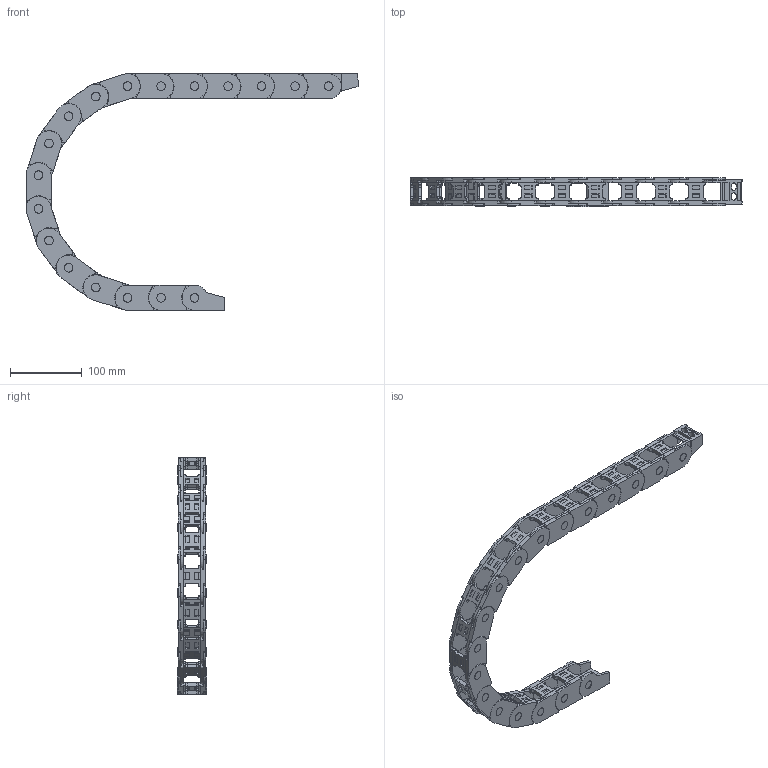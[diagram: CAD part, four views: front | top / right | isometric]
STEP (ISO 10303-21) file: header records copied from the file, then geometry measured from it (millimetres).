
FILE_DESCRIPTION((''),'2;1');
FILE_NAME('QS-25X25-R150_ASM','2022-06-10T16:22:41',('admin'),(''),'CREO PARAMETRIC BY PTC INC, 2021164','CREO PARAMETRIC BY PTC INC, 2021164','');
FILE_SCHEMA(('CONFIG_CONTROL_DESIGN','GEOMETRIC_VALIDATION_PROPERTIES_MIM'));
Length unit declared in the file: millimetre
Products named in the file (7): 25XL-L; 25XL-R; PIAN-25; ASM0001_ASM; 25X25-LTT-1; 25X25-LTT-2; QS-25X25-R150_ASM
Assembly tree (23 placements, depth 3):
  QS-25X25-R150_ASM
    ASM0001_ASM  x17
      25XL-L
      25XL-R
      PIAN-25
    25X25-LTT-1
    25X25-LTT-2
Bounding box: 461.71 x 40.6 x 329.22 mm (x, y, z)
Volume: 484377.8 mm3; surface area: 310798.5 mm2
Topology: 70 solids, 70 shells, 2736 faces, 7790 edges, 5232 vertices
Faces by surface type: plane 2104, cylinder 632
Entity records: 8193 total; most frequent: CARTESIAN_POINT 1305, DIRECTION 1160, ORIENTED_EDGE 1144, EDGE_CURVE 572, VECTOR 448, LINE 448, VERTEX_POINT 388, AXIS2_PLACEMENT_3D 356
